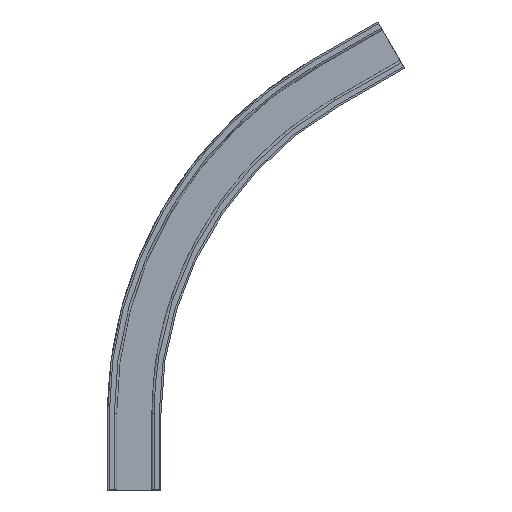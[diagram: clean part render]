
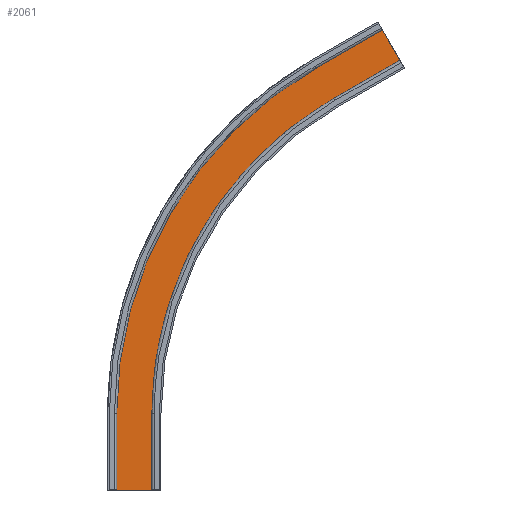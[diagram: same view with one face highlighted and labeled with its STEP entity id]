
A CAD part, front view. The second image highlights one B-rep face of the part: STEP entity #2061.
In plain terms, the highlighted planar face has unit normal (0, -1, 0).
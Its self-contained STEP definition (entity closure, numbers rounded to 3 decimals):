
#361 = VERTEX_POINT ( 'NONE', #3876 ) ;
#381 = VERTEX_POINT ( 'NONE', #3855 ) ;
#406 =( BOUNDED_CURVE ( )  B_SPLINE_CURVE ( 3, ( #5482, #5481, #5480, #5440 ),
 .UNSPECIFIED., .F., .T. ) 
 B_SPLINE_CURVE_WITH_KNOTS ( ( 4, 4 ),
 ( 0., 1. ),
 .UNSPECIFIED. ) 
 CURVE ( )  GEOMETRIC_REPRESENTATION_ITEM ( )  RATIONAL_B_SPLINE_CURVE ( ( 1., 0.911, 0.911, 1. ) ) 
 REPRESENTATION_ITEM ( '' )  );
#422 =( BOUNDED_CURVE ( )  B_SPLINE_CURVE ( 3, ( #3297, #3299, #3300, #3301 ),
 .UNSPECIFIED., .F., .T. ) 
 B_SPLINE_CURVE_WITH_KNOTS ( ( 4, 4 ),
 ( 0., 1. ),
 .UNSPECIFIED. ) 
 CURVE ( )  GEOMETRIC_REPRESENTATION_ITEM ( )  RATIONAL_B_SPLINE_CURVE ( ( 1., 0.911, 0.911, 1. ) ) 
 REPRESENTATION_ITEM ( '' )  );
#2061 = ADVANCED_FACE ( 'NONE', ( #8785 ), #3733, .F. ) ;
#2286 = AXIS2_PLACEMENT_3D ( 'NONE', #3732, #3731, #3730 ) ;
#3096 = EDGE_CURVE ( 'NONE', #4687, #4685, #8356, .T. ) ;
#3104 = EDGE_CURVE ( 'NONE', #4685, #4710, #406, .T. ) ;
#3118 = EDGE_CURVE ( 'NONE', #4710, #381, #8332, .T. ) ;
#3126 = EDGE_CURVE ( 'NONE', #4850, #361, #422, .T. ) ;
#3132 = EDGE_CURVE ( 'NONE', #4620, #361, #8322, .T. ) ;
#3137 = EDGE_CURVE ( 'NONE', #4663, #4850, #8320, .T. ) ;
#3139 = EDGE_CURVE ( 'NONE', #381, #4663, #8317, .T. ) ;
#3287 = DIRECTION ( 'NONE',  ( 0.866, 0., 0.5 ) ) ;
#3297 = CARTESIAN_POINT ( 'NONE',  ( -180.639, 246.202, 562.792 ) ) ;
#3299 = CARTESIAN_POINT ( 'NONE',  ( -329.782, 246.202, 476.685 ) ) ;
#3300 = CARTESIAN_POINT ( 'NONE',  ( -415.889, 246.202, 327.542 ) ) ;
#3301 = CARTESIAN_POINT ( 'NONE',  ( -415.889, 246.202, 155.327 ) ) ;
#3302 = CARTESIAN_POINT ( 'NONE',  ( -415.889, 246.202, 155.327 ) ) ;
#3303 = DIRECTION ( 'NONE',  ( 0., 0., 1. ) ) ;
#3307 = CARTESIAN_POINT ( 'NONE',  ( -94.037, 246.202, 612.792 ) ) ;
#3308 = DIRECTION ( 'NONE',  ( -0.866, 0., -0.5 ) ) ;
#3309 = CARTESIAN_POINT ( 'NONE',  ( -94.037, 246.202, 612.792 ) ) ;
#3311 = DIRECTION ( 'NONE',  ( 0.5, 0., -0.866 ) ) ;
#3317 = CARTESIAN_POINT ( 'NONE',  ( -415.889, 246.202, 55.327 ) ) ;
#3321 = DIRECTION ( 'NONE',  ( 1., 0., 0. ) ) ;
#3375 = EDGE_CURVE ( 'NONE', #4687, #4620, #8308, .T. ) ;
#3444 = CARTESIAN_POINT ( 'NONE',  ( -210.139, 246.202, 613.888 ) ) ;
#3730 = DIRECTION ( 'NONE',  ( -1., 0., 0. ) ) ;
#3731 = DIRECTION ( 'NONE',  ( 0., 1., 0. ) ) ;
#3732 = CARTESIAN_POINT ( 'NONE',  ( -474.889, 246.202, 155.327 ) ) ;
#3733 = PLANE ( 'NONE',  #2286 ) ;
#3855 = CARTESIAN_POINT ( 'NONE',  ( -123.537, 246.202, 663.888 ) ) ;
#3876 = CARTESIAN_POINT ( 'NONE',  ( -415.889, 246.202, 155.327 ) ) ;
#4620 = VERTEX_POINT ( 'NONE', #7194 ) ;
#4663 = VERTEX_POINT ( 'NONE', #7151 ) ;
#4685 = VERTEX_POINT ( 'NONE', #7121 ) ;
#4687 = VERTEX_POINT ( 'NONE', #7118 ) ;
#4710 = VERTEX_POINT ( 'NONE', #7088 ) ;
#4850 = VERTEX_POINT ( 'NONE', #6907 ) ;
#5440 = CARTESIAN_POINT ( 'NONE',  ( -210.139, 246.202, 613.888 ) ) ;
#5480 = CARTESIAN_POINT ( 'NONE',  ( -377.984, 246.202, 516.982 ) ) ;
#5481 = CARTESIAN_POINT ( 'NONE',  ( -474.889, 246.202, 349.138 ) ) ;
#5482 = CARTESIAN_POINT ( 'NONE',  ( -474.889, 246.202, 155.327 ) ) ;
#5610 = DIRECTION ( 'NONE',  ( 0., 0., 1. ) ) ;
#5611 = CARTESIAN_POINT ( 'NONE',  ( -474.889, 246.202, 155.327 ) ) ;
#6288 = EDGE_LOOP ( 'NONE', ( #9141, #9145, #9150, #9152, #9153, #9157, #8273, #8298 ) ) ;
#6907 = CARTESIAN_POINT ( 'NONE',  ( -180.639, 246.202, 562.792 ) ) ;
#7088 = CARTESIAN_POINT ( 'NONE',  ( -210.139, 246.202, 613.888 ) ) ;
#7118 = CARTESIAN_POINT ( 'NONE',  ( -474.889, 246.202, 55.327 ) ) ;
#7121 = CARTESIAN_POINT ( 'NONE',  ( -474.889, 246.202, 155.327 ) ) ;
#7151 = CARTESIAN_POINT ( 'NONE',  ( -94.037, 246.202, 612.792 ) ) ;
#7194 = CARTESIAN_POINT ( 'NONE',  ( -415.889, 246.202, 55.327 ) ) ;
#8273 = ORIENTED_EDGE ( 'NONE', *, *, #3096, .F. ) ;
#8298 = ORIENTED_EDGE ( 'NONE', *, *, #3375, .T. ) ;
#8307 = VECTOR ( 'NONE', #3321, 1000. ) ;
#8308 = LINE ( 'NONE', #3317, #8307 ) ;
#8316 = VECTOR ( 'NONE', #3311, 1000. ) ;
#8317 = LINE ( 'NONE', #3309, #8316 ) ;
#8318 = VECTOR ( 'NONE', #3308, 1000. ) ;
#8320 = LINE ( 'NONE', #3307, #8318 ) ;
#8321 = VECTOR ( 'NONE', #3303, 1000. ) ;
#8322 = LINE ( 'NONE', #3302, #8321 ) ;
#8331 = VECTOR ( 'NONE', #3287, 1000. ) ;
#8332 = LINE ( 'NONE', #3444, #8331 ) ;
#8355 = VECTOR ( 'NONE', #5610, 1000. ) ;
#8356 = LINE ( 'NONE', #5611, #8355 ) ;
#8785 = FACE_OUTER_BOUND ( 'NONE', #6288, .T. ) ;
#9141 = ORIENTED_EDGE ( 'NONE', *, *, #3132, .T. ) ;
#9145 = ORIENTED_EDGE ( 'NONE', *, *, #3126, .F. ) ;
#9150 = ORIENTED_EDGE ( 'NONE', *, *, #3137, .F. ) ;
#9152 = ORIENTED_EDGE ( 'NONE', *, *, #3139, .F. ) ;
#9153 = ORIENTED_EDGE ( 'NONE', *, *, #3118, .F. ) ;
#9157 = ORIENTED_EDGE ( 'NONE', *, *, #3104, .F. ) ;
